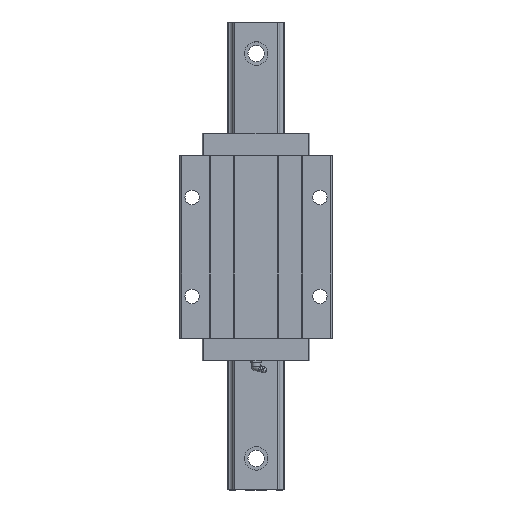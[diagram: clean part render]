
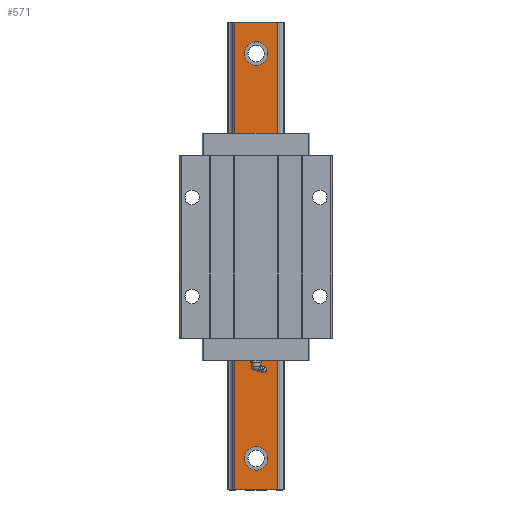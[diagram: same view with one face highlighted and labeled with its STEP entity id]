
A CAD part, top view. The second image highlights one B-rep face of the part: STEP entity #571.
In plain terms, the highlighted planar face has unit normal (0, 0, 1).
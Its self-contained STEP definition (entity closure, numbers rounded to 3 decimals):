
#182=FACE_BOUND('',#1272,.T.);
#183=FACE_BOUND('',#1273,.T.);
#184=FACE_BOUND('',#1274,.T.);
#185=FACE_BOUND('',#1275,.T.);
#571=ADVANCED_FACE('',(#182,#183,#184,#185,#972),#747,.F.);
#747=PLANE('',#5097);
#972=FACE_OUTER_BOUND('',#1276,.T.);
#1272=EDGE_LOOP('',(#2655));
#1273=EDGE_LOOP('',(#2656));
#1274=EDGE_LOOP('',(#2657));
#1275=EDGE_LOOP('',(#2658));
#1276=EDGE_LOOP('',(#2659,#2660,#2661,#2662));
#1481=CIRCLE('',#5093,13.);
#1482=CIRCLE('',#5094,13.);
#1483=CIRCLE('',#5095,13.);
#1484=CIRCLE('',#5096,13.);
#2655=ORIENTED_EDGE('',*,*,#3826,.T.);
#2656=ORIENTED_EDGE('',*,*,#3827,.T.);
#2657=ORIENTED_EDGE('',*,*,#3828,.T.);
#2658=ORIENTED_EDGE('',*,*,#3829,.T.);
#2659=ORIENTED_EDGE('',*,*,#3830,.T.);
#2660=ORIENTED_EDGE('',*,*,#3825,.F.);
#2661=ORIENTED_EDGE('',*,*,#3831,.F.);
#2662=ORIENTED_EDGE('',*,*,#3832,.T.);
#3193=VERTEX_POINT('',#7965);
#3194=VERTEX_POINT('',#7967);
#3195=VERTEX_POINT('',#7971);
#3196=VERTEX_POINT('',#7973);
#3197=VERTEX_POINT('',#7975);
#3198=VERTEX_POINT('',#7977);
#3199=VERTEX_POINT('',#7979);
#3200=VERTEX_POINT('',#7981);
#3825=EDGE_CURVE('',#3194,#3193,#4253,.T.);
#3826=EDGE_CURVE('',#3195,#3195,#1481,.T.);
#3827=EDGE_CURVE('',#3196,#3196,#1482,.T.);
#3828=EDGE_CURVE('',#3197,#3197,#1483,.T.);
#3829=EDGE_CURVE('',#3198,#3198,#1484,.T.);
#3830=EDGE_CURVE('',#3199,#3193,#4254,.T.);
#3831=EDGE_CURVE('',#3200,#3194,#4255,.T.);
#3832=EDGE_CURVE('',#3200,#3199,#4256,.T.);
#4253=LINE('',#7968,#4659);
#4254=LINE('',#7978,#4660);
#4255=LINE('',#7980,#4661);
#4256=LINE('',#7982,#4662);
#4659=VECTOR('',#6351,1.);
#4660=VECTOR('',#6362,1.);
#4661=VECTOR('',#6363,1.);
#4662=VECTOR('',#6364,1.);
#5093=AXIS2_PLACEMENT_3D('',#7970,#6354,#6355);
#5094=AXIS2_PLACEMENT_3D('',#7972,#6356,#6357);
#5095=AXIS2_PLACEMENT_3D('',#7974,#6358,#6359);
#5096=AXIS2_PLACEMENT_3D('',#7976,#6360,#6361);
#5097=AXIS2_PLACEMENT_3D('',#7983,#6365,#6366);
#6351=DIRECTION('',(0.,-1.,0.));
#6354=DIRECTION('',(0.,0.,-1.));
#6355=DIRECTION('',(-1.,0.,0.));
#6356=DIRECTION('',(0.,0.,-1.));
#6357=DIRECTION('',(-1.,0.,0.));
#6358=DIRECTION('',(0.,0.,-1.));
#6359=DIRECTION('',(-1.,0.,0.));
#6360=DIRECTION('',(0.,0.,-1.));
#6361=DIRECTION('',(-1.,0.,0.));
#6362=DIRECTION('',(1.,0.,0.));
#6363=DIRECTION('',(1.,0.,0.));
#6364=DIRECTION('',(0.,-1.,0.));
#6365=DIRECTION('',(0.,0.,-1.));
#6366=DIRECTION('',(-1.,0.,0.));
#7965=CARTESIAN_POINT('',(24.212,15.,37.9));
#7967=CARTESIAN_POINT('',(24.212,535.,37.9));
#7968=CARTESIAN_POINT('',(24.212,535.,37.9));
#7970=CARTESIAN_POINT('',(0.1,500.,37.9));
#7971=CARTESIAN_POINT('',(-12.9,500.,37.9));
#7972=CARTESIAN_POINT('',(0.1,350.,37.9));
#7973=CARTESIAN_POINT('',(-12.9,350.,37.9));
#7974=CARTESIAN_POINT('',(0.1,200.,37.9));
#7975=CARTESIAN_POINT('',(-12.9,200.,37.9));
#7976=CARTESIAN_POINT('',(0.1,50.,37.9));
#7977=CARTESIAN_POINT('',(-12.9,50.,37.9));
#7978=CARTESIAN_POINT('',(-24.212,15.,37.9));
#7979=CARTESIAN_POINT('',(-24.212,15.,37.9));
#7980=CARTESIAN_POINT('',(-24.212,535.,37.9));
#7981=CARTESIAN_POINT('',(-24.212,535.,37.9));
#7982=CARTESIAN_POINT('',(-24.212,535.,37.9));
#7983=CARTESIAN_POINT('',(-24.212,535.,37.9));
